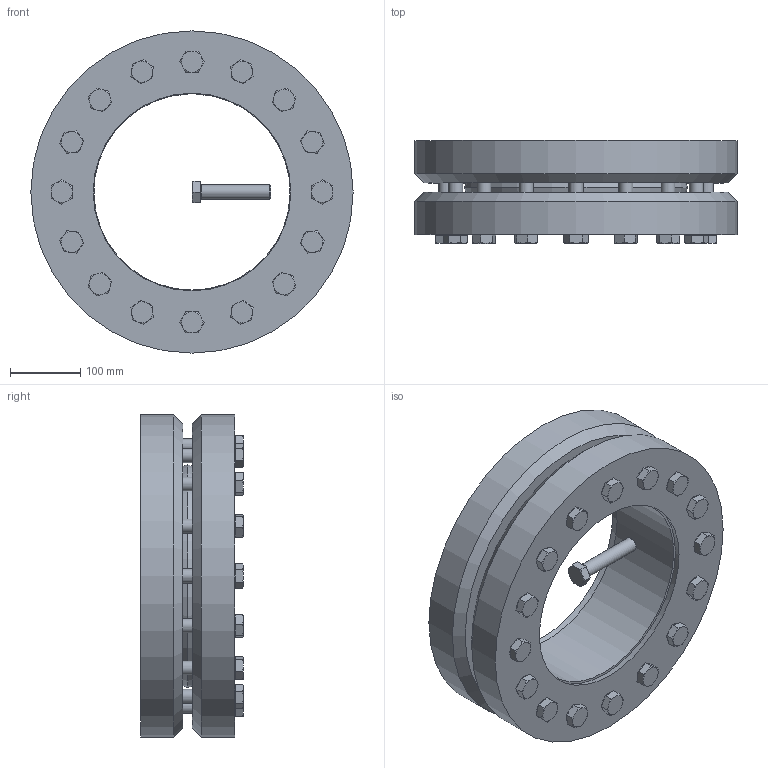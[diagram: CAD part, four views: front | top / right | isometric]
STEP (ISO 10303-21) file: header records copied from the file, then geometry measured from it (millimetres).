
FILE_DESCRIPTION( ( 'Unknown' ), '1' );
FILE_NAME( 'C:/Dokumente und Einstellungen/Sven/Desktop/homepage/cad - homepage/KBS19/KBS 19 - 280 x 460.stp', 'Unknown', ( 'Unknown' ), ( 'Unknown' ), 'XStep 1.0', 'Unknown', ' ' );
FILE_SCHEMA( ( 'automotive_design' ) );
Length unit declared in the file: millimetre
Products named in the file (3): Assem1; KBS 19 - 280 x 460; ISO 4017 - M20 x 100-N
Bounding box: 460 x 146.5 x 460 mm (x, y, z)
Volume: 24581463.1 mm3; surface area: 1711646.2 mm2
Topology: 19 solids, 19 shells, 535 faces, 1250 edges, 770 vertices
Faces by surface type: plane 283, cone 131, cylinder 104, torus 17
Full cylindrical faces by diameter (mm): 20 x81, 30 x17, 460 x4
Entity records: 2952 total; most frequent: CARTESIAN_POINT 453, DIRECTION 438, ORIENTED_EDGE 316, AXIS2_PLACEMENT_3D 198, EDGE_LOOP 191, EDGE_CURVE 158, VERTEX_POINT 125, FACE_OUTER_BOUND 117
